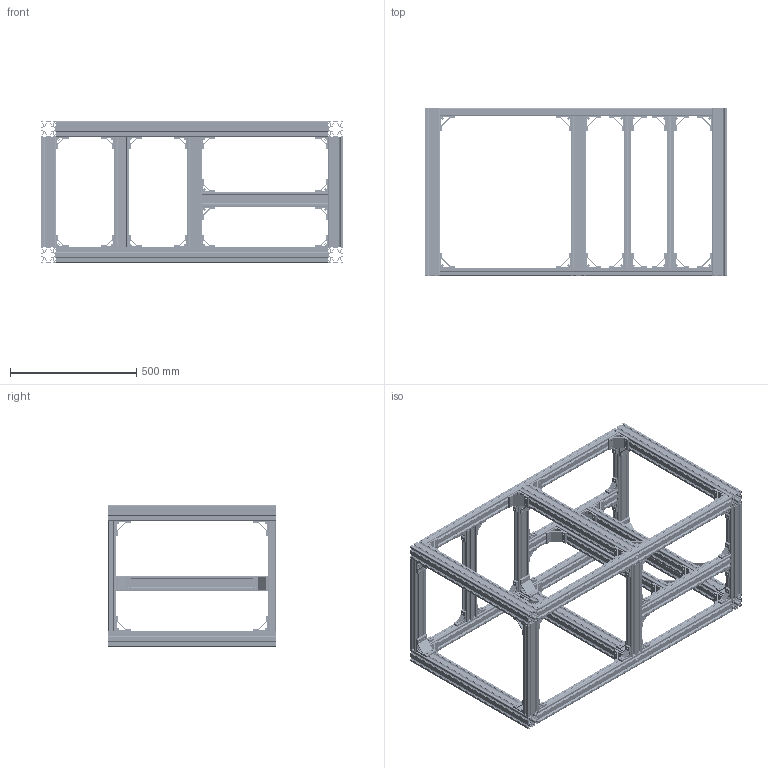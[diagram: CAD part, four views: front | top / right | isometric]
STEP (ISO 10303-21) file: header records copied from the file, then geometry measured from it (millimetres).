
FILE_DESCRIPTION (( 'STEP AP214' ), '1' );
FILE_NAME ('AGZ061.CG.01_V1型材框架总成.STEP', '2021-09-26T06:24:21', ( '微软中国' ), ( 'Microsoft' ), 'SwSTEP 2.0', 'SolidWorks 2017', '' );
FILE_SCHEMA (( 'AUTOMOTIVE_DESIGN' ));
Length unit declared in the file: millimetre
Products named in the file (1): AGZ061.CG.01_V1倰第遺殤軞傖
Bounding box: 1200 x 663 x 560 mm (x, y, z)
Volume: 10922151.9 mm3; surface area: 9315948.6 mm2
Topology: 85 solids, 85 shells, 9732 faces, 28746 edges, 19164 vertices
Faces by surface type: cylinder 5202, plane 4530
Entity records: 438144 total; most frequent: DIRECTION 58504, CARTESIAN_POINT 58299, ORIENTED_EDGE 57492, EDGE_CURVE 28746, AXIS2_PLACEMENT_3D 20105, VERTEX_POINT 19164, VECTOR 18294, LINE 18294
